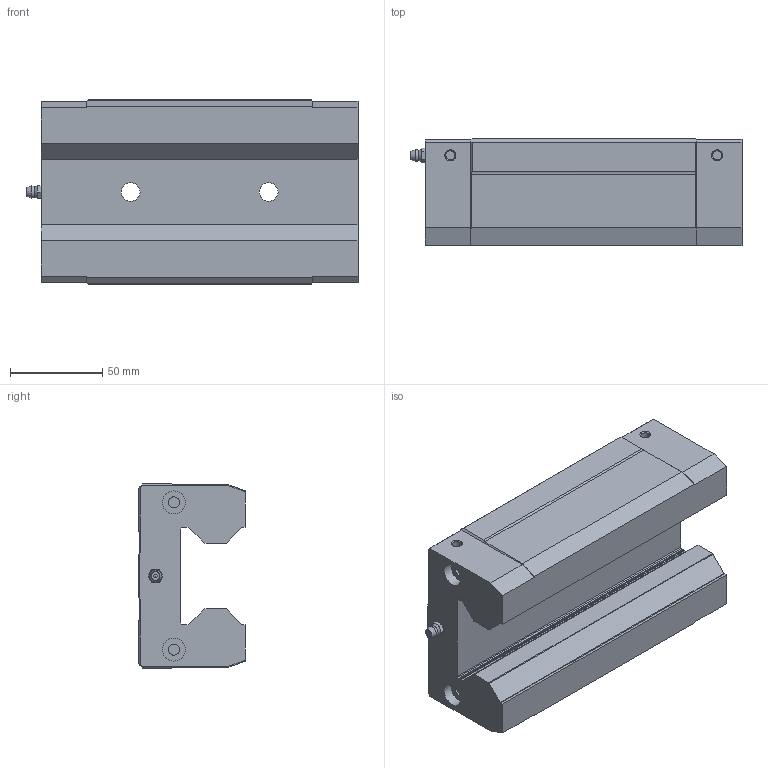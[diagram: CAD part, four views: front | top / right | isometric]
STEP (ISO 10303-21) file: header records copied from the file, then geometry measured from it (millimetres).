
FILE_DESCRIPTION(/* description */ ('STEP AP214'),/* implementation_level */ '2;1');
FILE_NAME(/* name */ 'ERG55P6VC1N0______CAD_NO_(A-MT61)',/* time_stamp */ '2026-05-18T11:25:34+02:00',/* author */ ('License CC BY-ND 4.0'),/* organization */ ('CADENAS'),/* preprocessor_version */ 'ST-DEVELOPER v20',/* originating_system */ 'PARTsolutions',/* authorisation */ ' ');
FILE_SCHEMA (('AUTOMOTIVE_DESIGN {1 0 10303 214 3 1 1}'));
Length unit declared in the file: millimetre
Products named in the file (3): ERG55P6VC1N0______CAD_NO_(A-MT61); ERG55V01 Slider; hsr_ftht_A-M6F_grease_nipple_joint
Assembly tree (2 placements, depth 2):
  ERG55P6VC1N0______CAD_NO_(A-MT61)
    ERG55V01 Slider
    hsr_ftht_A-M6F_grease_nipple_joint
Bounding box: 180.41 x 58 x 100 mm (x, y, z)
Volume: 705294.4 mm3; surface area: 82930.1 mm2
Topology: 2 solids, 2 shells, 166 faces, 409 edges, 264 vertices
Faces by surface type: plane 95, cylinder 43, cone 25, sphere 2, torus 1
Full cylindrical faces by diameter (mm): 4.917 x6, 6 x5, 10.106 x6, 10.2 x2, 12.5 x4
Entity records: 4667 total; most frequent: CARTESIAN_POINT 851, DIRECTION 776, ORIENTED_EDGE 704, EDGE_CURVE 352, AXIS2_PLACEMENT_3D 279, VERTEX_POINT 256, FACE_BOUND 236, EDGE_LOOP 232
